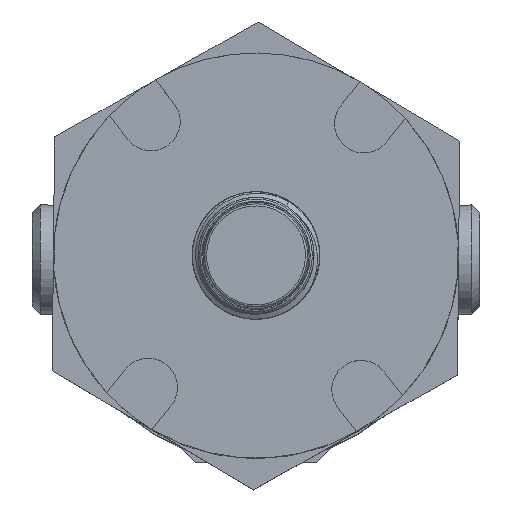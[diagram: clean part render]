
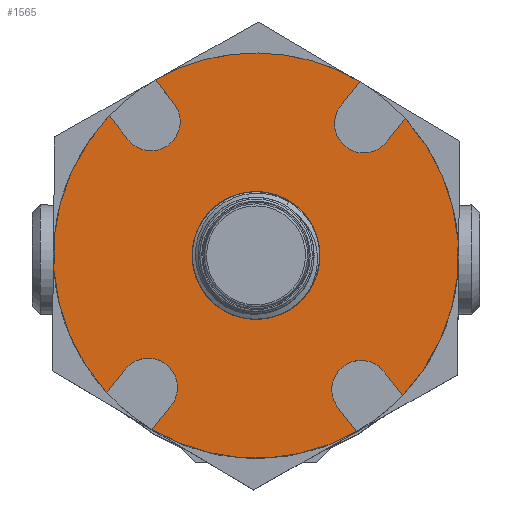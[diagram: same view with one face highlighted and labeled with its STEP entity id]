
A CAD part, top view. The second image highlights one B-rep face of the part: STEP entity #1565.
In plain terms, the highlighted planar face has unit normal (0, 0, 1).
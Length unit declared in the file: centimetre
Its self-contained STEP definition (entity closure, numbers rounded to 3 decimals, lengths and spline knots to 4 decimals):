
#41=FACE_BOUND('',#243,.T.);
#73=PLANE('',#1727);
#144=FACE_OUTER_BOUND('',#242,.T.);
#242=EDGE_LOOP('',(#1217,#1218,#1219,#1220,#1221,#1222,#1223,#1224,#1225,
#1226,#1227,#1228,#1229,#1230,#1231,#1232,#1233));
#243=EDGE_LOOP('',(#1234));
#326=CIRCLE('',#1701,0.275);
#328=CIRCLE('',#1704,0.275);
#329=CIRCLE('',#1706,1.905);
#330=CIRCLE('',#1707,1.905);
#332=CIRCLE('',#1709,1.905);
#333=CIRCLE('',#1710,1.905);
#335=CIRCLE('',#1712,1.905);
#336=CIRCLE('',#1715,0.275);
#337=CIRCLE('',#1721,0.275);
#338=CIRCLE('',#1728,0.53);
#476=LINE('',#3248,#602);
#477=LINE('',#3250,#603);
#478=LINE('',#3252,#604);
#479=LINE('',#3254,#605);
#484=LINE('',#3265,#610);
#485=LINE('',#3267,#611);
#486=LINE('',#3269,#612);
#487=LINE('',#3271,#613);
#602=VECTOR('',#1991,1.);
#603=VECTOR('',#1994,1.);
#604=VECTOR('',#1997,1.);
#605=VECTOR('',#2000,1.);
#610=VECTOR('',#2013,1.);
#611=VECTOR('',#2016,1.);
#612=VECTOR('',#2019,1.);
#613=VECTOR('',#2022,1.);
#719=VERTEX_POINT('',#3191);
#722=VERTEX_POINT('',#3196);
#723=VERTEX_POINT('',#3200);
#726=VERTEX_POINT('',#3205);
#727=VERTEX_POINT('',#3209);
#728=VERTEX_POINT('',#3211);
#729=VERTEX_POINT('',#3214);
#730=VERTEX_POINT('',#3216);
#733=VERTEX_POINT('',#3222);
#734=VERTEX_POINT('',#3224);
#735=VERTEX_POINT('',#3227);
#736=VERTEX_POINT('',#3229);
#739=VERTEX_POINT('',#3235);
#740=VERTEX_POINT('',#3242);
#741=VERTEX_POINT('',#3244);
#742=VERTEX_POINT('',#3256);
#743=VERTEX_POINT('',#3258);
#744=VERTEX_POINT('',#3273);
#883=EDGE_CURVE('',#719,#722,#326,.T.);
#887=EDGE_CURVE('',#723,#726,#328,.T.);
#889=EDGE_CURVE('',#728,#727,#329,.T.);
#892=EDGE_CURVE('',#730,#729,#330,.T.);
#896=EDGE_CURVE('',#734,#733,#332,.T.);
#899=EDGE_CURVE('',#736,#735,#333,.T.);
#903=EDGE_CURVE('',#727,#739,#335,.T.);
#907=EDGE_CURVE('',#741,#740,#336,.T.);
#909=EDGE_CURVE('',#739,#719,#476,.T.);
#910=EDGE_CURVE('',#722,#736,#477,.T.);
#911=EDGE_CURVE('',#735,#741,#478,.T.);
#912=EDGE_CURVE('',#740,#734,#479,.T.);
#914=EDGE_CURVE('',#743,#742,#337,.T.);
#918=EDGE_CURVE('',#742,#728,#484,.T.);
#919=EDGE_CURVE('',#729,#743,#485,.T.);
#920=EDGE_CURVE('',#726,#730,#486,.T.);
#921=EDGE_CURVE('',#733,#723,#487,.T.);
#922=EDGE_CURVE('',#744,#744,#338,.T.);
#1217=ORIENTED_EDGE('',*,*,#921,.T.);
#1218=ORIENTED_EDGE('',*,*,#887,.T.);
#1219=ORIENTED_EDGE('',*,*,#920,.T.);
#1220=ORIENTED_EDGE('',*,*,#892,.T.);
#1221=ORIENTED_EDGE('',*,*,#919,.T.);
#1222=ORIENTED_EDGE('',*,*,#914,.T.);
#1223=ORIENTED_EDGE('',*,*,#918,.T.);
#1224=ORIENTED_EDGE('',*,*,#889,.T.);
#1225=ORIENTED_EDGE('',*,*,#903,.T.);
#1226=ORIENTED_EDGE('',*,*,#909,.T.);
#1227=ORIENTED_EDGE('',*,*,#883,.T.);
#1228=ORIENTED_EDGE('',*,*,#910,.T.);
#1229=ORIENTED_EDGE('',*,*,#899,.T.);
#1230=ORIENTED_EDGE('',*,*,#911,.T.);
#1231=ORIENTED_EDGE('',*,*,#907,.T.);
#1232=ORIENTED_EDGE('',*,*,#912,.T.);
#1233=ORIENTED_EDGE('',*,*,#896,.T.);
#1234=ORIENTED_EDGE('',*,*,#922,.T.);
#1565=ADVANCED_FACE('',(#144,#41),#73,.F.);
#1701=AXIS2_PLACEMENT_3D('',#3198,#1944,#1945);
#1704=AXIS2_PLACEMENT_3D('',#3207,#1952,#1953);
#1706=AXIS2_PLACEMENT_3D('',#3212,#1957,#1958);
#1707=AXIS2_PLACEMENT_3D('',#3217,#1961,#1962);
#1709=AXIS2_PLACEMENT_3D('',#3225,#1967,#1968);
#1710=AXIS2_PLACEMENT_3D('',#3230,#1971,#1972);
#1712=AXIS2_PLACEMENT_3D('',#3237,#1977,#1978);
#1715=AXIS2_PLACEMENT_3D('',#3245,#1986,#1987);
#1721=AXIS2_PLACEMENT_3D('',#3259,#2004,#2005);
#1727=AXIS2_PLACEMENT_3D('',#3272,#2023,#2024);
#1728=AXIS2_PLACEMENT_3D('',#3274,#2025,#2026);
#1944=DIRECTION('center_axis',(0.,0.,
-1.));
#1945=DIRECTION('ref_axis',(-0.01,-1.,0.));
#1952=DIRECTION('center_axis',(0.,0.,
-1.));
#1953=DIRECTION('ref_axis',(-0.01,-1.,0.));
#1957=DIRECTION('center_axis',(0.,0.,
1.));
#1958=DIRECTION('ref_axis',(-0.01,-1.,0.));
#1961=DIRECTION('center_axis',(0.,0.,
1.));
#1962=DIRECTION('ref_axis',(-0.01,-1.,0.));
#1967=DIRECTION('center_axis',(0.,0.,
1.));
#1968=DIRECTION('ref_axis',(-0.01,-1.,0.));
#1971=DIRECTION('center_axis',(0.,0.,
1.));
#1972=DIRECTION('ref_axis',(-0.01,-1.,0.));
#1977=DIRECTION('center_axis',(0.,0.,
1.));
#1978=DIRECTION('ref_axis',(-0.01,-1.,0.));
#1986=DIRECTION('center_axis',(0.,0.,
-1.));
#1987=DIRECTION('ref_axis',(-0.01,-1.,0.));
#1991=DIRECTION('',(0.617,-0.787,0.));
#1994=DIRECTION('',(-0.617,0.787,0.));
#1997=DIRECTION('',(0.633,0.775,0.));
#2000=DIRECTION('',(-0.633,-0.775,0.));
#2004=DIRECTION('center_axis',(0.,0.,
-1.));
#2005=DIRECTION('ref_axis',(-0.01,-1.,0.));
#2013=DIRECTION('',(0.633,0.775,0.));
#2016=DIRECTION('',(-0.633,-0.775,0.));
#2019=DIRECTION('',(0.617,-0.787,0.));
#2022=DIRECTION('',(-0.617,0.787,0.));
#2023=DIRECTION('center_axis',(0.,0.,
-1.));
#2024=DIRECTION('ref_axis',(1.,-0.01,0.));
#2025=DIRECTION('center_axis',(0.,0.,
-1.));
#2026=DIRECTION('ref_axis',(0.524,0.851,0.));
#3191=CARTESIAN_POINT('',(-0.782,1.4429,5.1308));
#3196=CARTESIAN_POINT('',(-1.214,1.1043,5.1308));
#3198=CARTESIAN_POINT('Origin',(-0.9873,1.26,5.1308));
#3200=CARTESIAN_POINT('',(0.782,-1.4429,5.1308));
#3205=CARTESIAN_POINT('',(1.214,-1.1043,5.1308));
#3207=CARTESIAN_POINT('Origin',(0.9873,-1.26,5.1308));
#3209=CARTESIAN_POINT('',(0.0192,1.9049,5.1308));
#3211=CARTESIAN_POINT('',(0.9798,1.6337,5.1308));
#3212=CARTESIAN_POINT('Origin',(0.,0.,
5.1308));
#3214=CARTESIAN_POINT('',(1.405,1.2865,5.1308));
#3216=CARTESIAN_POINT('',(1.3788,-1.3145,5.1308));
#3217=CARTESIAN_POINT('Origin',(0.,0.,
5.1308));
#3222=CARTESIAN_POINT('',(0.9467,-1.6531,5.1308));
#3224=CARTESIAN_POINT('',(-0.9798,-1.6337,5.1308));
#3225=CARTESIAN_POINT('Origin',(0.,0.,
5.1308));
#3227=CARTESIAN_POINT('',(-1.405,-1.2865,5.1308));
#3229=CARTESIAN_POINT('',(-1.3788,1.3145,5.1308));
#3230=CARTESIAN_POINT('Origin',(0.,0.,
5.1308));
#3235=CARTESIAN_POINT('',(-0.9467,1.6531,5.1308));
#3237=CARTESIAN_POINT('Origin',(0.,0.,
5.1308));
#3242=CARTESIAN_POINT('',(-0.8109,-1.4268,5.1308));
#3244=CARTESIAN_POINT('',(-1.236,-1.0796,5.1308));
#3245=CARTESIAN_POINT('Origin',(-1.0126,-1.2399,5.1308));
#3248=CARTESIAN_POINT('',(-0.3715,0.919,5.1308));
#3250=CARTESIAN_POINT('',(-0.7097,0.4607,5.1308));
#3252=CARTESIAN_POINT('',(-0.8151,-0.5641,5.1308));
#3254=CARTESIAN_POINT('',(-0.2937,-0.7935,5.1308));
#3256=CARTESIAN_POINT('',(0.8109,1.4268,5.1308));
#3258=CARTESIAN_POINT('',(1.236,1.0796,5.1308));
#3259=CARTESIAN_POINT('Origin',(1.0126,1.2399,5.1308));
#3265=CARTESIAN_POINT('',(0.3899,0.9113,5.1308));
#3267=CARTESIAN_POINT('',(0.7189,0.4463,5.1308));
#3269=CARTESIAN_POINT('',(0.8035,-0.5805,5.1308));
#3271=CARTESIAN_POINT('',(0.2776,-0.7993,5.1308));
#3272=CARTESIAN_POINT('Origin',(0.,0.,
5.1308));
#3273=CARTESIAN_POINT('',(-0.2779,-0.4513,5.1308));
#3274=CARTESIAN_POINT('Origin',(0.,0.,
5.1308));
